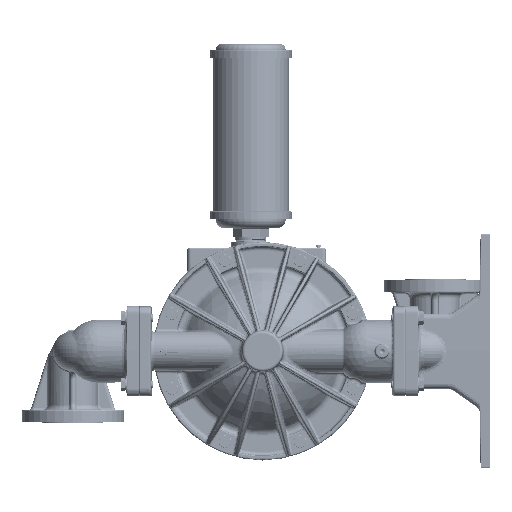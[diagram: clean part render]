
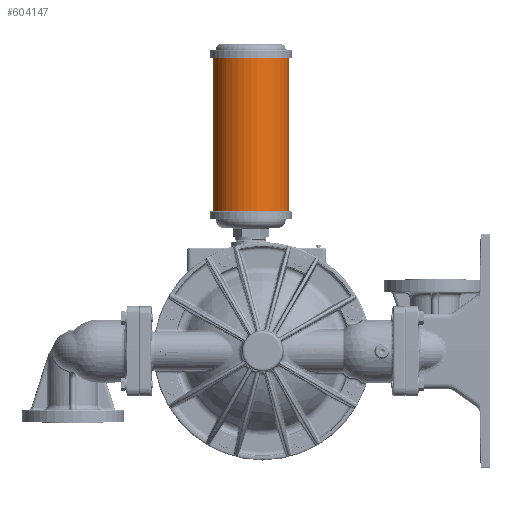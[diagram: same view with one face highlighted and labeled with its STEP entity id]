
A CAD part, left-side view. The second image highlights one B-rep face of the part: STEP entity #604147.
In plain terms, the highlighted cylindrical face has radius 61.722 mm (diameter 123.444 mm), a partial arc.
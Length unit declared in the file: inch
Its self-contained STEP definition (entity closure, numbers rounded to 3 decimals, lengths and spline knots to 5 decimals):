
#33935 = CIRCLE ( 'NONE', #701099, 2.43 ) ;
#46947 = ORIENTED_EDGE ( 'NONE', *, *, #471393, .F. ) ;
#51441 = CARTESIAN_POINT ( 'NONE',  ( 0., 3.18, 8.905 ) ) ;
#89881 = CARTESIAN_POINT ( 'NONE',  ( 0., 3.18, 8.905 ) ) ;
#98049 = DIRECTION ( 'NONE',  ( 0., -1., 0. ) ) ;
#121945 = CIRCLE ( 'NONE', #586303, 2.43 ) ;
#142161 = LINE ( 'NONE', #89881, #601336 ) ;
#162063 = AXIS2_PLACEMENT_3D ( 'NONE', #482475, #717304, #98049 ) ;
#180214 = ORIENTED_EDGE ( 'NONE', *, *, #693758, .T. ) ;
#182397 = DIRECTION ( 'NONE',  ( 0., 1., 0. ) ) ;
#207703 = VERTEX_POINT ( 'NONE', #51441 ) ;
#216410 = VERTEX_POINT ( 'NONE', #637151 ) ;
#223660 = CARTESIAN_POINT ( 'NONE',  ( 0., -1.68, 8.905 ) ) ;
#237105 = ORIENTED_EDGE ( 'NONE', *, *, #712092, .T. ) ;
#254871 = FACE_OUTER_BOUND ( 'NONE', #671542, .T. ) ;
#262302 = DIRECTION ( 'NONE',  ( 0., 0., 1. ) ) ;
#286841 = VERTEX_POINT ( 'NONE', #654971 ) ;
#304531 = DIRECTION ( 'NONE',  ( 0., 0., 1. ) ) ;
#335723 = DIRECTION ( 'NONE',  ( 0., 1., 0. ) ) ;
#362349 = DIRECTION ( 'NONE',  ( 0., 0., 1. ) ) ;
#414962 = VECTOR ( 'NONE', #262302, 39.37008 ) ;
#422846 = CYLINDRICAL_SURFACE ( 'NONE', #162063, 2.43 ) ;
#471393 = EDGE_CURVE ( 'NONE', #207703, #216410, #142161, .T. ) ;
#477219 = ORIENTED_EDGE ( 'NONE', *, *, #585840, .F. ) ;
#482475 = CARTESIAN_POINT ( 'NONE',  ( 0., 0.75, 20.1725 ) ) ;
#514690 = CARTESIAN_POINT ( 'NONE',  ( 0., 0.75, 18.685 ) ) ;
#574273 = CARTESIAN_POINT ( 'NONE',  ( 0., 0.75, 8.905 ) ) ;
#585840 = EDGE_CURVE ( 'NONE', #216410, #286841, #33935, .T. ) ;
#586303 = AXIS2_PLACEMENT_3D ( 'NONE', #574273, #693481, #182397 ) ;
#601336 = VECTOR ( 'NONE', #362349, 39.37008 ) ;
#604147 = ADVANCED_FACE ( 'NONE', ( #254871 ), #422846, .T. ) ;
#637151 = CARTESIAN_POINT ( 'NONE',  ( 0., 3.18, 18.685 ) ) ;
#650445 = CARTESIAN_POINT ( 'NONE',  ( 0., -1.68, 8.905 ) ) ;
#654971 = CARTESIAN_POINT ( 'NONE',  ( 0., -1.68, 18.685 ) ) ;
#657757 = LINE ( 'NONE', #650445, #414962 ) ;
#671542 = EDGE_LOOP ( 'NONE', ( #237105, #180214, #477219, #46947 ) ) ;
#674220 = VERTEX_POINT ( 'NONE', #223660 ) ;
#693481 = DIRECTION ( 'NONE',  ( 0., 0., 1. ) ) ;
#693758 = EDGE_CURVE ( 'NONE', #674220, #286841, #657757, .T. ) ;
#701099 = AXIS2_PLACEMENT_3D ( 'NONE', #514690, #304531, #335723 ) ;
#712092 = EDGE_CURVE ( 'NONE', #207703, #674220, #121945, .T. ) ;
#717304 = DIRECTION ( 'NONE',  ( 0., 0., -1. ) ) ;
